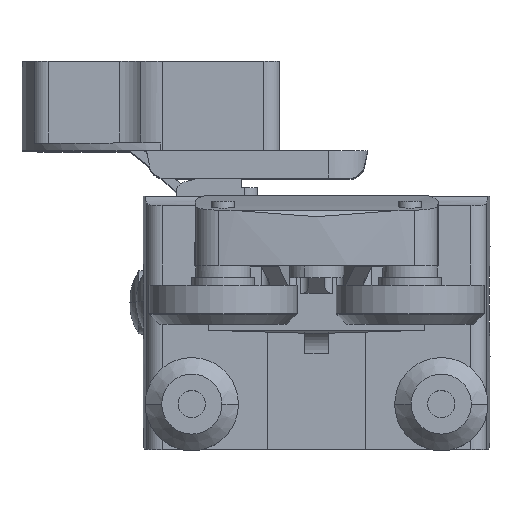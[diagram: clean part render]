
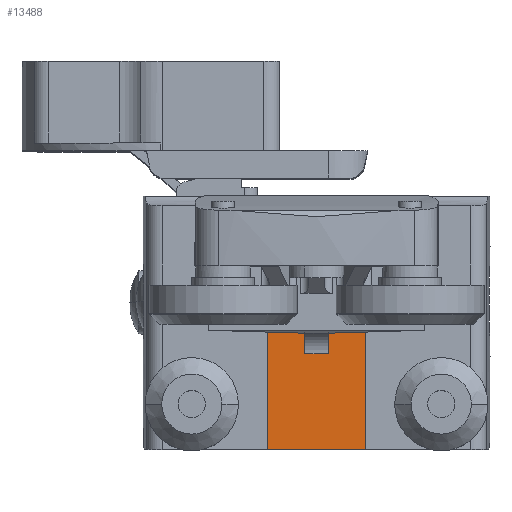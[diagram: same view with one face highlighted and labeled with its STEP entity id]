
A CAD part, top view. The second image highlights one B-rep face of the part: STEP entity #13488.
In plain terms, the highlighted planar face has unit normal (0, 0, 1).
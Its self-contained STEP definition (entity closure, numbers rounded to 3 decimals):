
#5518 = EDGE_CURVE( '', #7276, #5660, #15547, .T. );
#5660 = VERTEX_POINT( '', #15699 );
#5712 = VERTEX_POINT( '', #15756 );
#5872 = EDGE_CURVE( '', #5660, #10324, #15931, .T. );
#7276 = VERTEX_POINT( '', #17466 );
#7428 = EDGE_CURVE( '', #10324, #10762, #17628, .T. );
#7744 = VERTEX_POINT( '', #17980 );
#9052 = EDGE_CURVE( '', #5712, #10762, #19396, .T. );
#9122 = VERTEX_POINT( '', #19476 );
#9946 = EDGE_CURVE( '', #9122, #7744, #20374, .T. );
#10324 = VERTEX_POINT( '', #20786 );
#10356 = EDGE_CURVE( '', #7744, #10946, #20822, .T. );
#10762 = VERTEX_POINT( '', #21264 );
#10880 = EDGE_CURVE( '', #5712, #9122, #21393, .T. );
#10946 = VERTEX_POINT( '', #21467 );
#13488 = ADVANCED_FACE( '', ( #24228 ), #24229, .T. );
#14732 = EDGE_CURVE( '', #7276, #10946, #25575, .T. );
#15547 = LINE( '', #26681, #26682 );
#15699 = CARTESIAN_POINT( '', ( -1.5, -6.7, 11.6 ) );
#15756 = CARTESIAN_POINT( '', ( -6.25, -19., 11.6 ) );
#15931 = LINE( '', #27228, #27229 );
#17466 = CARTESIAN_POINT( '', ( 1.5, -6.7, 11.6 ) );
#17628 = LINE( '', #29756, #29757 );
#17980 = CARTESIAN_POINT( '', ( 6.25, 12.392, 11.6 ) );
#19396 = LINE( '', #32415, #32416 );
#19476 = CARTESIAN_POINT( '', ( 6.25, -19., 11.6 ) );
#20374 = LINE( '', #33942, #33943 );
#20786 = CARTESIAN_POINT( '', ( -1.5, 12.392, 11.6 ) );
#20822 = LINE( '', #34596, #34597 );
#21264 = CARTESIAN_POINT( '', ( -6.25, 12.392, 11.6 ) );
#21393 = LINE( '', #35478, #35479 );
#21467 = CARTESIAN_POINT( '', ( 1.5, 12.392, 11.6 ) );
#24228 = FACE_OUTER_BOUND( '', #39798, .T. );
#24229 = PLANE( '', #39799 );
#25575 = LINE( '', #41811, #41812 );
#26681 = CARTESIAN_POINT( '', ( 2., -6.7, 11.6 ) );
#26682 = VECTOR( '', #42889, 1. );
#27228 = CARTESIAN_POINT( '', ( -1.5, -19., 11.6 ) );
#27229 = VECTOR( '', #43400, 1. );
#29756 = CARTESIAN_POINT( '', ( -3.875, 12.392, 11.6 ) );
#29757 = VECTOR( '', #45200, 1. );
#32415 = CARTESIAN_POINT( '', ( -6.25, -19., 11.6 ) );
#32416 = VECTOR( '', #47121, 1. );
#33942 = CARTESIAN_POINT( '', ( 6.25, -19., 11.6 ) );
#33943 = VECTOR( '', #48326, 1. );
#34596 = CARTESIAN_POINT( '', ( 3.875, 12.392, 11.6 ) );
#34597 = VECTOR( '', #48901, 1. );
#35478 = CARTESIAN_POINT( '', ( 1.5, -19., 11.6 ) );
#35479 = VECTOR( '', #49657, 1. );
#39798 = EDGE_LOOP( '', ( #52653, #52654, #52655, #52656, #52657, #52658, #52659, #52660 ) );
#39799 = AXIS2_PLACEMENT_3D( '', #52661, #52662, #52663 );
#41811 = CARTESIAN_POINT( '', ( 1.5, -19., 11.6 ) );
#41812 = VECTOR( '', #54064, 1. );
#42889 = DIRECTION( '', ( -1., 0., 0. ) );
#43400 = DIRECTION( '', ( 0., 1., 0. ) );
#45200 = DIRECTION( '', ( -1., 0., 0. ) );
#47121 = DIRECTION( '', ( 0., 1., 0. ) );
#48326 = DIRECTION( '', ( 0., 1., 0. ) );
#48901 = DIRECTION( '', ( -1., 0., 0. ) );
#49657 = DIRECTION( '', ( 1., 0., 0. ) );
#52653 = ORIENTED_EDGE( '', *, *, #10880, .T. );
#52654 = ORIENTED_EDGE( '', *, *, #9946, .T. );
#52655 = ORIENTED_EDGE( '', *, *, #10356, .T. );
#52656 = ORIENTED_EDGE( '', *, *, #14732, .F. );
#52657 = ORIENTED_EDGE( '', *, *, #5518, .T. );
#52658 = ORIENTED_EDGE( '', *, *, #5872, .T. );
#52659 = ORIENTED_EDGE( '', *, *, #7428, .T. );
#52660 = ORIENTED_EDGE( '', *, *, #9052, .F. );
#52661 = CARTESIAN_POINT( '', ( -1.5, -19., 11.6 ) );
#52662 = DIRECTION( '', ( 0., 0., 1. ) );
#52663 = DIRECTION( '', ( 1., 0., 0. ) );
#54064 = DIRECTION( '', ( 0., 1., 0. ) );
